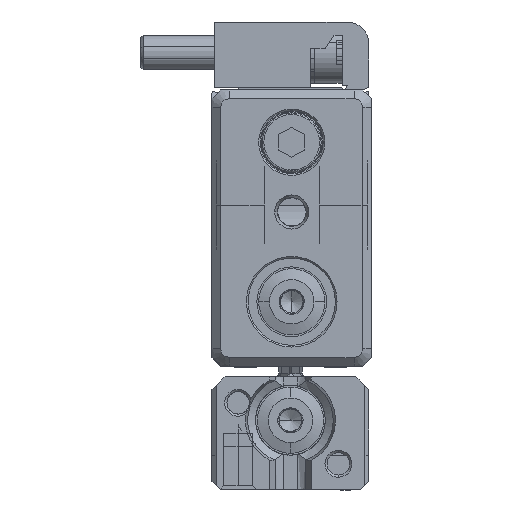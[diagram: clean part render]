
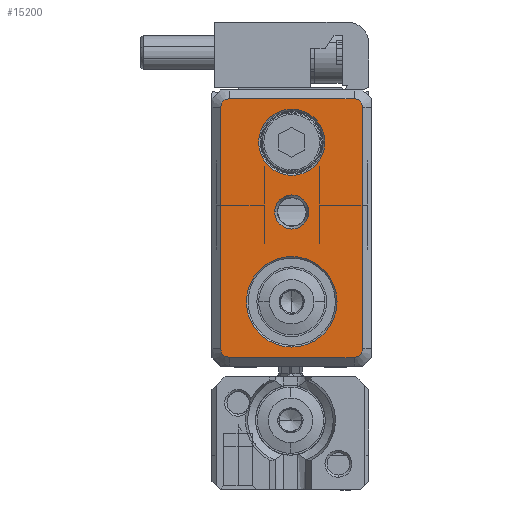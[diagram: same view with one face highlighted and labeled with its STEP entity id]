
A CAD part, left-side view. The second image highlights one B-rep face of the part: STEP entity #15200.
In plain terms, the highlighted planar face has unit normal (-1, 0, 0).
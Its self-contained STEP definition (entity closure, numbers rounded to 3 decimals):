
#13090=CARTESIAN_POINT('',(-93.638,46.3,
-79.283));
#13100=VERTEX_POINT('',#13090);
#13130=CARTESIAN_POINT('',(-93.638,45.3,
-79.283));
#13140=DIRECTION('',(1.,0.,0.));
#13150=DIRECTION('',(0.,1.,0.));
#13160=AXIS2_PLACEMENT_3D('',#13130,#13140,#13150);
#13170=CIRCLE('',#13160,1.);
#13180=CARTESIAN_POINT('',(-93.638,45.3,
-80.283));
#13190=VERTEX_POINT('',#13180);
#13200=EDGE_CURVE('',#13190,#13100,#13170,.T.);
#14100=CARTESIAN_POINT('',(-93.638,38.15,
-65.583));
#14110=DIRECTION('',(1.,0.,0.));
#14120=DIRECTION('',(0.,1.,0.));
#14130=AXIS2_PLACEMENT_3D('',#14100,#14110,#14120);
#14140=PLANE('',#14130);
#14150=CARTESIAN_POINT('',(-93.638,38.15,
-56.983));
#14160=DIRECTION('',(1.,0.,0.));
#14170=DIRECTION('',(0.,-1.,0.));
#14180=AXIS2_PLACEMENT_3D('',#14150,#14160,#14170);
#14190=CIRCLE('',#14180,5.2);
#14200=CARTESIAN_POINT('',(-93.638,32.95,
-56.983));
#14210=VERTEX_POINT('',#14200);
#14220=CARTESIAN_POINT('',(-93.638,43.35,
-56.983));
#14230=VERTEX_POINT('',#14220);
#14240=EDGE_CURVE('',#14210,#14230,#14190,.T.);
#14250=ORIENTED_EDGE('',*,*,#14240,.T.);
#14260=EDGE_CURVE('',#14230,#14210,#14190,.T.);
#14270=ORIENTED_EDGE('',*,*,#14260,.T.);
#14280=EDGE_LOOP('',(#14270,#14250));
#14290=FACE_BOUND('',#14280,.T.);
#14300=CARTESIAN_POINT('',(-93.638,38.15,
-75.283));
#14310=DIRECTION('',(-1.,0.,0.));
#14320=DIRECTION('',(0.,1.,0.));
#14330=AXIS2_PLACEMENT_3D('',#14300,#14310,#14320);
#14340=CIRCLE('',#14330,3.8);
#14350=CARTESIAN_POINT('',(-93.638,34.35,
-75.283));
#14360=VERTEX_POINT('',#14350);
#14370=CARTESIAN_POINT('',(-93.638,41.95,
-75.283));
#14380=VERTEX_POINT('',#14370);
#14390=EDGE_CURVE('',#14360,#14380,#14340,.T.);
#14400=ORIENTED_EDGE('',*,*,#14390,.F.);
#14410=EDGE_CURVE('',#14380,#14360,#14340,.T.);
#14420=ORIENTED_EDGE('',*,*,#14410,.F.);
#14430=EDGE_LOOP('',(#14420,#14400));
#14440=FACE_BOUND('',#14430,.T.);
#14450=CARTESIAN_POINT('',(-93.638,38.15,
-67.283));
#14460=DIRECTION('',(-1.,0.,0.));
#14470=DIRECTION('',(0.,1.,0.));
#14480=AXIS2_PLACEMENT_3D('',#14450,#14460,#14470);
#14490=CIRCLE('',#14480,1.961);
#14500=CARTESIAN_POINT('',(-93.638,40.111,
-67.283));
#14510=VERTEX_POINT('',#14500);
#14520=CARTESIAN_POINT('',(-93.638,36.189,
-67.283));
#14530=VERTEX_POINT('',#14520);
#14540=EDGE_CURVE('',#14510,#14530,#14490,.T.);
#14550=ORIENTED_EDGE('',*,*,#14540,.F.);
#14560=EDGE_CURVE('',#14530,#14510,#14490,.T.);
#14570=ORIENTED_EDGE('',*,*,#14560,.F.);
#14580=EDGE_LOOP('',(#14570,#14550));
#14590=FACE_BOUND('',#14580,.T.);
#14600=CARTESIAN_POINT('',(-93.638,30.,
-49.133));
#14610=DIRECTION('',(0.,0.,1.));
#14620=VECTOR('',#14610,1.);
#14630=LINE('',#14600,#14620);
#14640=CARTESIAN_POINT('',(-93.638,30.,
-79.283));
#14650=VERTEX_POINT('',#14640);
#14660=CARTESIAN_POINT('',(-93.638,30.,
-51.583));
#14670=VERTEX_POINT('',#14660);
#14680=EDGE_CURVE('',#14650,#14670,#14630,.T.);
#14690=ORIENTED_EDGE('',*,*,#14680,.T.);
#14700=CARTESIAN_POINT('',(-93.638,31.,
-79.283));
#14710=DIRECTION('',(1.,0.,0.));
#14720=DIRECTION('',(0.,1.,0.));
#14730=AXIS2_PLACEMENT_3D('',#14700,#14710,#14720);
#14740=CIRCLE('',#14730,1.);
#14750=CARTESIAN_POINT('',(-93.638,31.,
-80.283));
#14760=VERTEX_POINT('',#14750);
#14770=EDGE_CURVE('',#14650,#14760,#14740,.T.);
#14780=ORIENTED_EDGE('',*,*,#14770,.F.);
#14790=CARTESIAN_POINT('',(-93.638,46.9,
-80.283));
#14800=DIRECTION('',(0.,-1.,0.));
#14810=VECTOR('',#14800,1.);
#14820=LINE('',#14790,#14810);
#14830=EDGE_CURVE('',#13190,#14760,#14820,.T.);
#14840=ORIENTED_EDGE('',*,*,#14830,.T.);
#14850=ORIENTED_EDGE('',*,*,#13200,.F.);
#14860=CARTESIAN_POINT('',(-93.638,46.3,
-49.133));
#14870=DIRECTION('',(0.,0.,-1.));
#14880=VECTOR('',#14870,1.);
#14890=LINE('',#14860,#14880);
#14900=CARTESIAN_POINT('',(-93.638,46.3,
-51.583));
#14910=VERTEX_POINT('',#14900);
#14920=EDGE_CURVE('',#14910,#13100,#14890,.T.);
#14930=ORIENTED_EDGE('',*,*,#14920,.T.);
#14940=CARTESIAN_POINT('',(-93.638,45.3,
-51.583));
#14950=DIRECTION('',(1.,0.,0.));
#14960=DIRECTION('',(0.,1.,0.));
#14970=AXIS2_PLACEMENT_3D('',#14940,#14950,#14960);
#14980=CIRCLE('',#14970,1.);
#14990=CARTESIAN_POINT('',(-93.638,45.3,
-50.583));
#15000=VERTEX_POINT('',#14990);
#15010=EDGE_CURVE('',#14910,#15000,#14980,.T.);
#15020=ORIENTED_EDGE('',*,*,#15010,.F.);
#15030=CARTESIAN_POINT('',(-93.638,46.9,
-50.583));
#15040=DIRECTION('',(0.,1.,0.));
#15050=VECTOR('',#15040,1.);
#15060=LINE('',#15030,#15050);
#15070=CARTESIAN_POINT('',(-93.638,31.,
-50.583));
#15080=VERTEX_POINT('',#15070);
#15090=EDGE_CURVE('',#15080,#15000,#15060,.T.);
#15100=ORIENTED_EDGE('',*,*,#15090,.T.);
#15110=CARTESIAN_POINT('',(-93.638,31.,
-51.583));
#15120=DIRECTION('',(1.,0.,0.));
#15130=DIRECTION('',(0.,1.,0.));
#15140=AXIS2_PLACEMENT_3D('',#15110,#15120,#15130);
#15150=CIRCLE('',#15140,1.);
#15160=EDGE_CURVE('',#15080,#14670,#15150,.T.);
#15170=ORIENTED_EDGE('',*,*,#15160,.F.);
#15180=EDGE_LOOP('',(#15170,#15100,#15020,#14930,#14850,#14840,#14780,
#14690));
#15190=FACE_OUTER_BOUND('',#15180,.T.);
#15200=ADVANCED_FACE('',(#14290,#14440,#14590,#15190),#14140,.F.);
